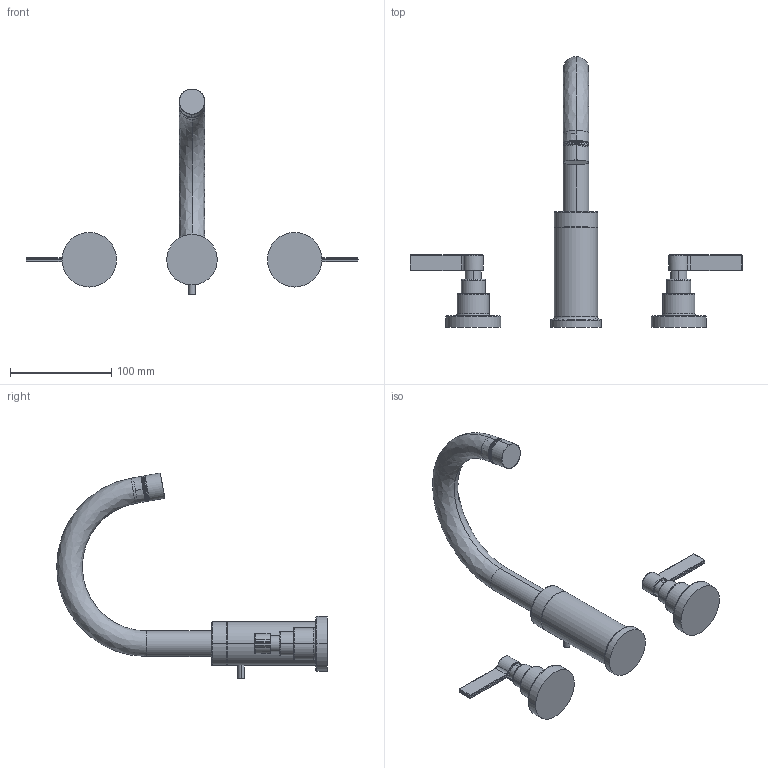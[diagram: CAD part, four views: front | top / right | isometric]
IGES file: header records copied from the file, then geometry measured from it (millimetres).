
Start section:  PTC IGES file: sku_ts478.igs
Global section: file name: sku_ts478.igs; native system: Pro/ENGINEER by Parametric Technology Corporation; preprocessor: 2006460; author: 9dutterb; organization: Unknown; date: 20071109.164143; units: inch
Bounding box: 328.42 x 267.75 x 203.76 mm (x, y, z)
Surface area: 80716.2 mm2 (no closed solid volume)
Topology: 0 solids, 0 shells, 150 faces, 608 edges, 608 vertices
Faces by surface type: revolution 106, bspline 44
